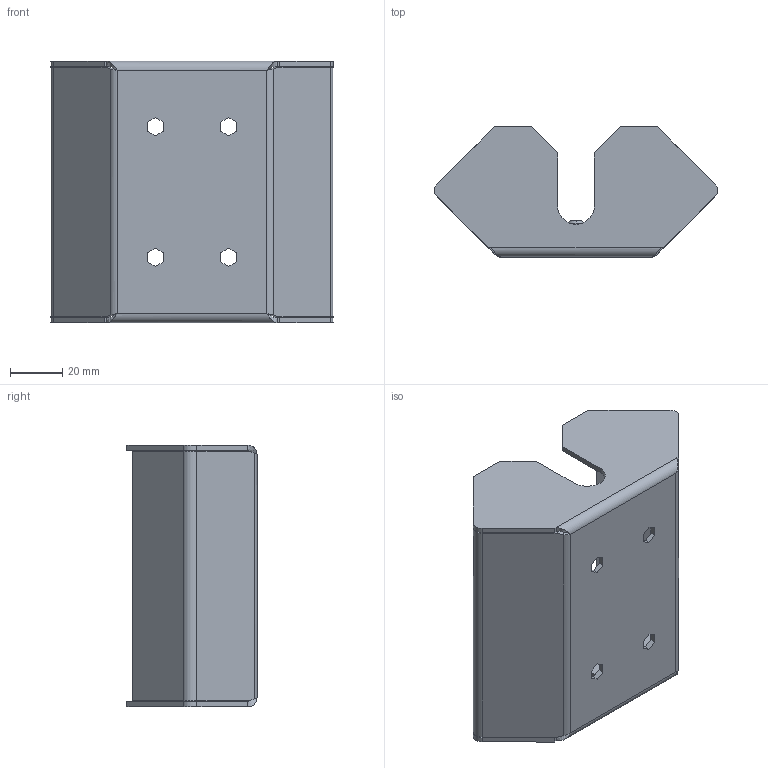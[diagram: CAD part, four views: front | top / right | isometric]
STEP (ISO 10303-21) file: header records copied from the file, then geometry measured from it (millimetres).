
FILE_DESCRIPTION (( 'STEP AP203' ), '1' );
FILE_NAME ('MA1.600.060620.11.00 Óãëîâîé ýëåìåíò öîêîëÿ 100 ìì.STEP', '2024-02-13T11:20:48', ( '' ), ( '' ), 'SwSTEP 2.0', 'SolidWorks 2021', '' );
FILE_SCHEMA (( 'CONFIG_CONTROL_DESIGN' ));
Length unit declared in the file: millimetre
Products named in the file (3): MA1.600.060620.11.00 Óãëîâîé ýëåìåíò öîêîëÿ 100 ìì; MA1.600.060620.11.01 Óãëîâîé ýëåìåíò öîêîëÿ 100 ìì_‚=100; Øïèëüêà Ì6õ12_˜¯¨«ìª  Œ6å12
Assembly tree (2 placements, depth 2):
  MA1.600.060620.11.00 Óãëîâîé ýëåìåíò öîêîëÿ 100 ìì
    MA1.600.060620.11.01 Óãëîâîé ýëåìåíò öîêîëÿ 100 ìì_‚=100
    Øïèëüêà Ì6õ12_˜¯¨«ìª  Œ6å12
Bounding box: 108.05 x 49.73 x 100 mm (x, y, z)
Volume: 50276.7 mm3; surface area: 52352.2 mm2
Topology: 2 solids, 2 shells, 121 faces, 292 edges, 178 vertices
Faces by surface type: plane 85, cylinder 26, bspline 8, cone 2
Entity records: 3987 total; most frequent: CARTESIAN_POINT 918, ORIENTED_EDGE 584, DIRECTION 538, EDGE_CURVE 292, VECTOR 226, LINE 226, VERTEX_POINT 178, AXIS2_PLACEMENT_3D 156
